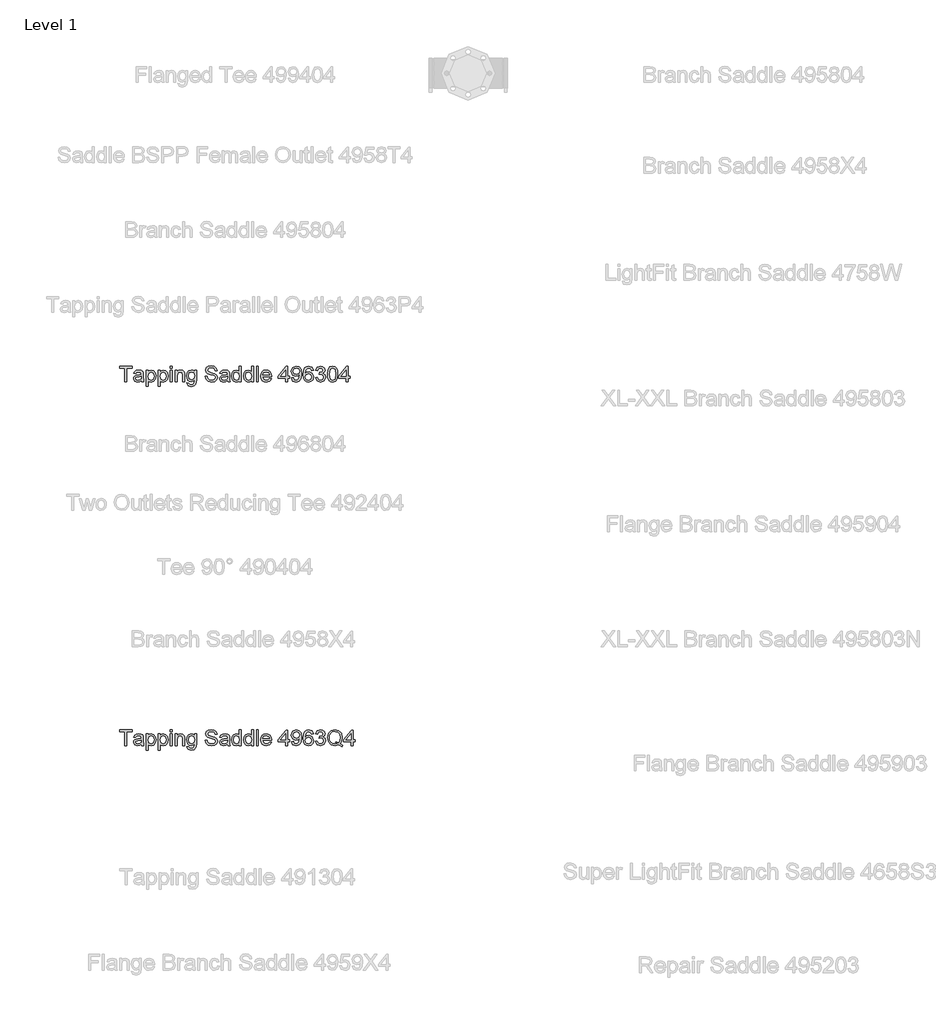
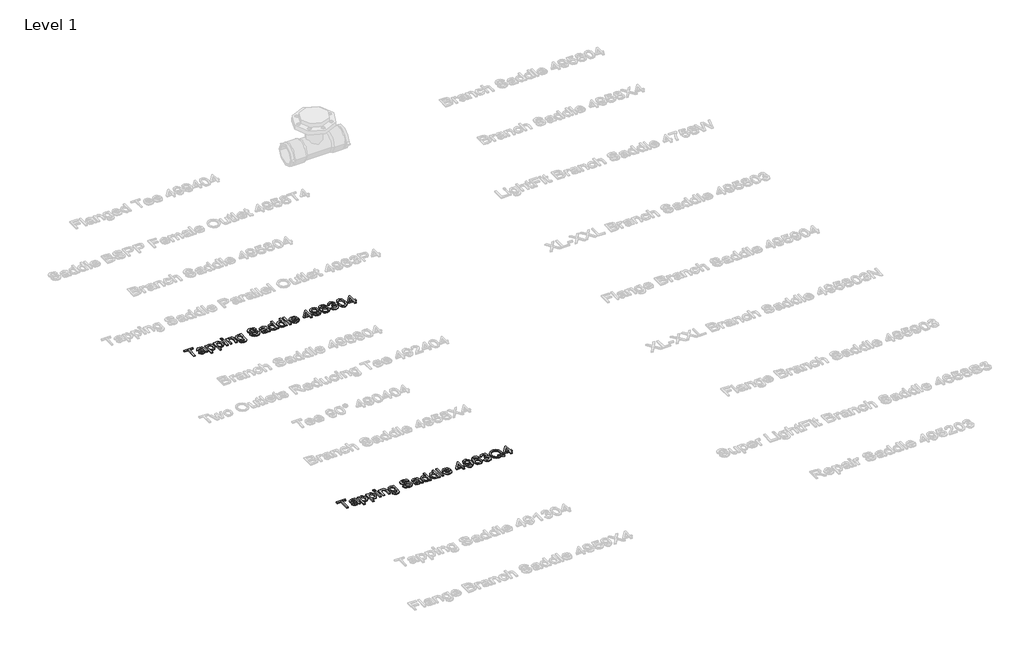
# One storey, part 5 of 41: 2 proxies.
"""IFC4 building model written with IfcOpenShell, lengths in millimetres."""

from ifc_helpers import new_model, si_unit, origin, origin_with_axes, place, context, project, spatial, polyline, outline, extrude, element, save

model = new_model("IFC4")

# Units and contexts
model_context = context("Model", 3, world=origin())
ifc_project = project(units=[si_unit("LENGTHUNIT", "METRE", prefix="MILLI")], contexts=[model_context])

# Site, building, storey
site = spatial("IfcSite", under=ifc_project)
building = spatial("IfcBuilding", under=site)
storey = spatial("IfcBuildingStorey", under=building, Name="Level 1", Elevation=0.0)

# Proxies
placement = place(None, origin())
element("IfcBuildingElementProxy", 1, Name="100 mm Arial", ObjectType="100 mm Arial", at=placement, inside=storey, context=model_context, shape_type="SweptSolid", body=[
    extrude(outline(polyline([(6647.6731533, 3817.5779735), (6647.6731533, 3869.2702812), (6628.288538, 3869.2702812), (6628.288538, 3876.6548966), (6674.4423841, 3876.6548966), (6674.4423841, 3869.2702812), (6655.0577687, 3869.2702812), (6655.0577687, 3817.5779735), (6647.6731533, 3817.5779735)])), origin_with_axes(), (0.0, 0.0, 1.0), 5.0),
    extrude(outline(polyline([(6709.5193072, 3823.1164351), (6702.3582495, 3818.1116274), (6694.4471918, 3816.6548966), (6683.7236341, 3820.1597043), (6679.9808456, 3829.1164351), (6681.3943072, 3834.9577812), (6685.1082495, 3839.1981658), (6690.2789226, 3841.6212428), (6696.6683456, 3842.7318197), (6709.476038, 3845.2702812), (6709.5193072, 3846.914512), (6707.4856533, 3852.3664351), (6699.3221918, 3854.5010505), (6691.851038, 3853.0803774), (6688.288538, 3848.039512), (6680.9039226, 3848.9625889), (6684.0986341, 3856.1741274), (6690.5313264, 3860.4000889), (6700.2741149, 3861.8856658), (6709.2236341, 3860.5731658), (6714.2789226, 3857.2774928), (6716.5433456, 3852.2654735), (6716.9039226, 3845.8039351), (6716.9039226, 3836.6164351), (6717.2789226, 3823.7871082), (6718.7500764, 3817.5779735), (6711.365461, 3817.5779735), (6709.5193072, 3823.1164351)]), holes=[polyline([(6709.5193072, 3837.8856658), (6697.6058456, 3835.6212428), (6691.2524803, 3834.4241274), (6688.3750764, 3832.477012), (6687.365461, 3829.6356658), (6689.5649803, 3825.6404735), (6696.0193072, 3824.039512), (6703.490461, 3825.8063389), (6708.3077687, 3830.0827812), (6709.476038, 3835.7943197), (6709.5193072, 3837.8856658)])]), origin_with_axes(), (0.0, 0.0, 1.0), 5.0),
    extrude(outline(polyline([(6727.0577687, 3800.9625889), (6727.0577687, 3860.9625889), (6734.4423841, 3860.9625889), (6734.4423841, 3853.7222043), (6739.5481533, 3859.8448005), (6746.4423841, 3861.8856658), (6755.802961, 3859.0298966), (6761.9183456, 3850.9818197), (6763.9808456, 3839.602012), (6761.6515187, 3827.6380697), (6754.8870956, 3819.4890312), (6745.5481533, 3816.6548966), (6739.1226726, 3818.5515312), (6734.4423841, 3823.3472043), (6734.4423841, 3800.9625889), (6727.0577687, 3800.9625889)]), holes=[polyline([(6734.4423841, 3838.9241274), (6737.6370956, 3827.6741274), (6745.3894995, 3824.039512), (6753.3005572, 3827.8039351), (6756.5962303, 3839.4722043), (6753.3798841, 3850.7510505), (6745.6923841, 3854.5010505), (6737.8534418, 3850.5130697), (6734.4423841, 3838.9241274)])]), origin_with_axes(), (0.0, 0.0, 1.0), 5.0),
    extrude(outline(polyline([(6772.288538, 3800.9625889), (6772.288538, 3860.9625889), (6779.6731533, 3860.9625889), (6779.6731533, 3853.7222043), (6784.7789226, 3859.8448005), (6791.6731533, 3861.8856658), (6801.0337303, 3859.0298966), (6807.1491149, 3850.9818197), (6809.2116149, 3839.602012), (6806.882288, 3827.6380697), (6800.1178649, 3819.4890312), (6790.7789226, 3816.6548966), (6784.3534418, 3818.5515312), (6779.6731533, 3823.3472043), (6779.6731533, 3800.9625889), (6772.288538, 3800.9625889)]), holes=[polyline([(6779.6731533, 3838.9241274), (6782.8678649, 3827.6741274), (6790.6202687, 3824.039512), (6798.5313264, 3827.8039351), (6801.8269995, 3839.4722043), (6798.6106533, 3850.7510505), (6790.9231533, 3854.5010505), (6783.084211, 3850.5130697), (6779.6731533, 3838.9241274)])]), origin_with_axes(), (0.0, 0.0, 1.0), 5.0),
    extrude(outline(polyline([(6817.5193072, 3869.2702812), (6817.5193072, 3876.6548966), (6824.9039226, 3876.6548966), (6824.9039226, 3869.2702812), (6817.5193072, 3869.2702812)])), origin_with_axes(), (0.0, 0.0, 1.0), 5.0),
    extrude(outline(polyline([(6817.5193072, 3817.5779735), (6817.5193072, 3860.9625889), (6824.9039226, 3860.9625889), (6824.9039226, 3817.5779735), (6817.5193072, 3817.5779735)])), origin_with_axes(), (0.0, 0.0, 1.0), 5.0),
    extrude(outline(polyline([(6835.9808456, 3817.5779735), (6835.9808456, 3860.9625889), (6843.365461, 3860.9625889), (6843.365461, 3854.9048966), (6849.0120956, 3860.1404735), (6856.7212303, 3861.8856658), (6863.694788, 3860.4794158), (6868.4544033, 3856.7871082), (6870.6683456, 3851.3568197), (6871.0577687, 3844.2173966), (6871.0577687, 3817.5779735), (6863.6731533, 3817.5779735), (6863.6731533, 3843.2222043), (6862.8221918, 3849.7558582), (6859.8149803, 3853.2101851), (6854.7452687, 3854.5010505), (6846.7332495, 3851.602012), (6843.365461, 3840.5972043), (6843.365461, 3817.5779735), (6835.9808456, 3817.5779735)])), origin_with_axes(), (0.0, 0.0, 1.0), 5.0),
    extrude(outline(polyline([(6879.365461, 3813.8856658), (6886.7500764, 3812.9625889), (6889.1443072, 3809.0683582), (6896.3125764, 3807.4241274), (6903.8702687, 3809.2847043), (6907.476038, 3814.5058582), (6907.9808456, 3823.1164351), (6896.4423841, 3817.5779735), (6888.8288024, 3819.1897524), (6883.1515187, 3824.0250889), (6878.4423841, 3839.4866274), (6880.5553649, 3850.9313389), (6886.6707495, 3859.0298966), (6896.0818072, 3861.8856658), (6902.6695476, 3860.2702812), (6907.9808456, 3855.4241274), (6907.9808456, 3860.9625889), (6915.365461, 3860.9625889), (6915.365461, 3823.5058582), (6913.3462303, 3809.1621082), (6906.9495956, 3802.4914351), (6896.1683456, 3800.039512), (6883.8870956, 3803.4938389), (6879.365461, 3813.8856658)]), holes=[polyline([(6885.8269995, 3839.9914351), (6888.9784418, 3828.5611466), (6896.8894995, 3824.9625889), (6904.7861341, 3828.539512), (6907.9808456, 3839.7750889), (6904.6923841, 3850.7871082), (6896.7741149, 3854.5010505), (6889.021711, 3850.8448005), (6885.8269995, 3839.9914351)])]), origin_with_axes(), (0.0, 0.0, 1.0), 5.0),
    extrude(outline(polyline([(6947.6731533, 3837.8856658), (6955.0577687, 3837.8856658), (6957.4375764, 3830.4938389), (6963.2500764, 3825.820762), (6972.1058456, 3824.039512), (6979.8221918, 3825.3880697), (6984.8053649, 3829.0948005), (6986.4423841, 3834.0491274), (6985.2164226, 3838.6573005), (6980.1971918, 3842.0106658), (6969.444788, 3844.8303774), (6957.8702687, 3848.4722043), (6951.5890187, 3853.9673966), (6949.5193072, 3861.3087428), (6952.0794033, 3869.6669158), (6959.5577687, 3875.5659543), (6970.5048841, 3877.5779735), (6982.1875764, 3875.4722043), (6989.976038, 3869.2847043), (6992.9039226, 3860.039512), (6985.5193072, 3860.039512), (6981.3366149, 3867.6260505), (6970.7933456, 3870.1933582), (6960.2212303, 3867.6548966), (6956.9039226, 3861.5250889), (6959.2548841, 3856.4048966), (6971.3125764, 3852.2798966), (6984.3798841, 3848.5731658), (6991.5265187, 3842.5875889), (6993.8269995, 3834.2366274), (6991.1803649, 3825.4024928), (6983.5649803, 3818.9553774), (6972.3943072, 3816.6548966), (6959.2044033, 3819.1356658), (6950.8606533, 3826.6068197), (6947.6731533, 3837.8856658)])), origin_with_axes(), (0.0, 0.0, 1.0), 5.0),
    extrude(outline(polyline([(7031.6731533, 3823.1164351), (7024.5120956, 3818.1116274), (7016.601038, 3816.6548966), (7005.8774803, 3820.1597043), (7002.1346918, 3829.1164351), (7003.5481533, 3834.9577812), (7007.2620956, 3839.1981658), (7012.4327687, 3841.6212428), (7018.8221918, 3842.7318197), (7031.6298841, 3845.2702812), (7031.6731533, 3846.914512), (7029.6394995, 3852.3664351), (7021.476038, 3854.5010505), (7014.0048841, 3853.0803774), (7010.4423841, 3848.039512), (7003.0577687, 3848.9625889), (7006.2524803, 3856.1741274), (7012.6851726, 3860.4000889), (7022.427961, 3861.8856658), (7031.3774803, 3860.5731658), (7036.4327687, 3857.2774928), (7038.6971918, 3852.2654735), (7039.0577687, 3845.8039351), (7039.0577687, 3836.6164351), (7039.4327687, 3823.7871082), (7040.9039226, 3817.5779735), (7033.5193072, 3817.5779735), (7031.6731533, 3823.1164351)]), holes=[polyline([(7031.6731533, 3837.8856658), (7019.7596918, 3835.6212428), (7013.4063264, 3834.4241274), (7010.5289226, 3832.477012), (7009.5193072, 3829.6356658), (7011.7188264, 3825.6404735), (7018.1731533, 3824.039512), (7025.6443072, 3825.8063389), (7030.4616149, 3830.0827812), (7031.6298841, 3835.7943197), (7031.6731533, 3837.8856658)])]), origin_with_axes(), (0.0, 0.0, 1.0), 5.0),
    extrude(outline(polyline([(7075.9808456, 3817.5779735), (7075.9808456, 3824.5443197), (7071.0950283, 3818.6272524), (7064.3414226, 3816.6548966), (7055.1971918, 3819.5106658), (7048.7356533, 3827.4794158), (7046.4423841, 3839.227012), (7048.5553649, 3850.9818197), (7054.8870956, 3859.0731658), (7064.3125764, 3861.8856658), (7071.1202687, 3859.8736466), (7075.9808456, 3854.6452812), (7075.9808456, 3876.6548966), (7083.365461, 3876.6548966), (7083.365461, 3817.5779735), (7075.9808456, 3817.5779735)]), holes=[polyline([(7053.8269995, 3839.2558582), (7057.1587303, 3827.8255697), (7065.0193072, 3824.039512), (7072.7861341, 3827.6524928), (7075.9808456, 3838.6933582), (7072.7284418, 3850.6789351), (7064.7164226, 3854.5010505), (7056.9423841, 3850.8303774), (7053.8269995, 3839.2558582)])]), origin_with_axes(), (0.0, 0.0, 1.0), 5.0),
    extrude(outline(polyline([(7121.2116149, 3817.5779735), (7121.2116149, 3824.5443197), (7116.3257976, 3818.6272524), (7109.5721918, 3816.6548966), (7100.427961, 3819.5106658), (7093.9664226, 3827.4794158), (7091.6731533, 3839.227012), (7093.7861341, 3850.9818197), (7100.1178649, 3859.0731658), (7109.5433456, 3861.8856658), (7116.351038, 3859.8736466), (7121.2116149, 3854.6452812), (7121.2116149, 3876.6548966), (7128.5962303, 3876.6548966), (7128.5962303, 3817.5779735), (7121.2116149, 3817.5779735)]), holes=[polyline([(7099.0577687, 3839.2558582), (7102.3894995, 3827.8255697), (7110.2500764, 3824.039512), (7118.0169033, 3827.6524928), (7121.2116149, 3838.6933582), (7117.959211, 3850.6789351), (7109.9471918, 3854.5010505), (7102.1731533, 3850.8303774), (7099.0577687, 3839.2558582)])]), origin_with_axes(), (0.0, 0.0, 1.0), 5.0),
    extrude(outline(polyline([(7139.6731533, 3817.5779735), (7139.6731533, 3876.6548966), (7147.0577687, 3876.6548966), (7147.0577687, 3817.5779735), (7139.6731533, 3817.5779735)])), origin_with_axes(), (0.0, 0.0, 1.0), 5.0),
    extrude(outline(polyline([(7188.5096918, 3830.5010505), (7195.7500764, 3829.5779735), (7188.9784418, 3820.0443197), (7176.365461, 3816.6548966), (7167.7007976, 3818.117036), (7161.0337303, 3822.5034543), (7156.7825283, 3829.5292957), (7155.365461, 3838.9097043), (7156.7969514, 3848.6056178), (7161.0914226, 3855.8568197), (7167.6683456, 3860.3784543), (7175.9471918, 3861.8856658), (7183.9682255, 3860.3820601), (7190.3774803, 3855.8712428), (7194.5800043, 3848.6344639), (7195.9808456, 3838.9529735), (7195.9375764, 3836.9625889), (7162.7500764, 3836.9625889), (7166.9976726, 3827.3712428), (7176.5096918, 3824.039512), (7183.7500764, 3825.5827812), (7188.5096918, 3830.5010505)]), holes=[polyline([(7162.7500764, 3844.3472043), (7188.5962303, 3844.3472043), (7185.6394995, 3851.039512), (7175.9183456, 3854.5010505), (7166.8245956, 3851.7390312), (7162.7500764, 3844.3472043)])]), origin_with_axes(), (0.0, 0.0, 1.0), 5.0),
    extrude(outline(polyline([(7248.5962303, 3817.5779735), (7248.5962303, 3831.4241274), (7221.8269995, 3831.4241274), (7221.8269995, 3838.8087428), (7250.4423841, 3875.7318197), (7255.9808456, 3875.7318197), (7255.9808456, 3838.8087428), (7263.365461, 3838.8087428), (7263.365461, 3831.4241274), (7255.9808456, 3831.4241274), (7255.9808456, 3817.5779735), (7248.5962303, 3817.5779735)]), holes=[polyline([(7248.5962303, 3838.8087428), (7248.5962303, 3861.6260505), (7230.913538, 3838.8087428), (7248.5962303, 3838.8087428)])]), origin_with_axes(), (0.0, 0.0, 1.0), 5.0),
    extrude(outline(polyline([(7270.7500764, 3832.3472043), (7278.1346918, 3833.2702812), (7281.4519995, 3826.2246082), (7287.740461, 3824.039512), (7293.7188264, 3825.445762), (7297.771711, 3829.2029735), (7300.1875764, 3835.6212428), (7301.2548841, 3844.1885505), (7295.3053649, 3840.0347043), (7287.2068072, 3837.8856658), (7274.8678649, 3843.1356658), (7269.8269995, 3856.9673966), (7275.1130572, 3871.2462428), (7288.3606533, 3876.6548966), (7298.882288, 3873.5683582), (7306.1226726, 3864.7702812), (7308.5962303, 3848.2414351), (7306.1298841, 3830.3063389), (7298.7957495, 3820.1452812), (7287.3943072, 3816.6548966), (7276.0433456, 3820.7726851), (7270.7500764, 3832.3472043)]), holes=[polyline([(7301.2116149, 3857.1404735), (7298.0241149, 3865.9962428), (7289.5577687, 3869.2702812), (7280.6731533, 3865.7438389), (7277.2116149, 3856.6068197), (7280.4856533, 3848.4217235), (7289.3558456, 3845.2702812), (7297.8726726, 3848.4217235), (7301.2116149, 3857.1404735)])]), origin_with_axes(), (0.0, 0.0, 1.0), 5.0),
    extrude(outline(polyline([(7352.9039226, 3860.9625889), (7345.5193072, 3860.039512), (7342.7212303, 3866.1981658), (7335.3221918, 3869.2702812), (7328.6587303, 3867.4818197), (7323.6178649, 3860.7678774), (7321.5193072, 3847.6068197), (7328.0313264, 3853.4986466), (7336.101038, 3855.4241274), (7348.6491149, 3850.1597043), (7353.8269995, 3836.5587428), (7351.3894995, 3826.3688389), (7344.6827687, 3819.1573005), (7335.0048841, 3816.6548966), (7326.6268793, 3818.3135505), (7319.9544033, 3823.289512), (7315.5896197, 3832.0731658), (7314.1346918, 3845.1548966), (7315.7500764, 3859.8628293), (7320.5962303, 3869.9193197), (7327.2128168, 3874.9710024), (7335.7837303, 3876.6548966), (7347.4519995, 3872.4866274), (7352.9039226, 3860.9625889)]), holes=[polyline([(7321.5193072, 3836.6741274), (7323.2284418, 3830.2774928), (7327.771711, 3825.633262), (7334.427961, 3824.039512), (7343.132288, 3827.3423966), (7346.4423841, 3836.3135505), (7343.1755572, 3844.9024928), (7334.1250764, 3848.039512), (7325.1899803, 3844.9024928), (7321.5193072, 3836.6741274)])]), origin_with_axes(), (0.0, 0.0, 1.0), 5.0),
    extrude(outline(polyline([(7360.288538, 3833.2702812), (7367.6731533, 3834.1933582), (7371.7476726, 3826.4193197), (7379.3702687, 3824.039512), (7388.3414226, 3827.3135505), (7391.6731533, 3835.4193197), (7388.3702687, 3843.0563389), (7379.976038, 3846.0779735), (7374.7981533, 3845.2702812), (7375.6202687, 3852.6548966), (7385.1827687, 3854.6885505), (7388.9039226, 3861.2077812), (7386.2068072, 3866.9842235), (7379.2548841, 3869.2702812), (7372.2164226, 3866.9625889), (7368.5962303, 3860.039512), (7361.2116149, 3860.9625889), (7367.2548841, 3872.5443197), (7378.9952687, 3876.6548966), (7387.9015187, 3874.6284543), (7394.132288, 3869.0899928), (7396.288538, 3861.6404735), (7394.240461, 3854.8327812), (7388.1827687, 3849.9433582), (7396.2308456, 3844.8952812), (7399.0577687, 3835.289512), (7393.4039226, 3822.0779735), (7379.1106533, 3816.6548966), (7366.1587303, 3821.2847043), (7360.288538, 3833.2702812)])), origin_with_axes(), (0.0, 0.0, 1.0), 5.0),
    extrude(outline(polyline([(7405.5193072, 3846.6404735), (7407.6899803, 3863.6380697), (7414.1370956, 3873.4385505), (7424.9039226, 3876.6548966), (7433.5289226, 3874.7510505), (7439.4856533, 3869.2630697), (7442.9471918, 3860.5226851), (7444.288538, 3846.6404735), (7442.1394995, 3829.7149928), (7435.7140187, 3819.8928774), (7424.9039226, 3816.6548966), (7417.2308456, 3818.0611466), (7411.4039226, 3822.2798966), (7406.990461, 3832.2714832), (7405.5193072, 3846.6404735)]), holes=[polyline([(7412.9039226, 3846.6548966), (7416.365461, 3828.3159543), (7424.9039226, 3824.039512), (7433.4423841, 3828.3303774), (7436.9039226, 3846.6548966), (7433.5577687, 3864.7847043), (7424.8173841, 3869.2702812), (7416.4808456, 3865.3183582), (7412.9039226, 3846.6548966)])]), origin_with_axes(), (0.0, 0.0, 1.0), 5.0),
    extrude(outline(polyline([(7474.7500764, 3817.5779735), (7474.7500764, 3831.4241274), (7447.9808456, 3831.4241274), (7447.9808456, 3838.8087428), (7476.5962303, 3875.7318197), (7482.1346918, 3875.7318197), (7482.1346918, 3838.8087428), (7489.5193072, 3838.8087428), (7489.5193072, 3831.4241274), (7482.1346918, 3831.4241274), (7482.1346918, 3817.5779735), (7474.7500764, 3817.5779735)]), holes=[polyline([(7474.7500764, 3838.8087428), (7474.7500764, 3861.6260505), (7457.0673841, 3838.8087428), (7474.7500764, 3838.8087428)])]), origin_with_axes(), (0.0, 0.0, 1.0), 5.0),
])
element("IfcBuildingElementProxy", 2, Name="100 mm Arial", ObjectType="100 mm Arial", at=placement, inside=storey, context=model_context, shape_type="SweptSolid", body=[
    extrude(outline(polyline([(6647.6731533, 2457.5779735), (6647.6731533, 2509.2702812), (6628.288538, 2509.2702812), (6628.288538, 2516.6548966), (6674.4423841, 2516.6548966), (6674.4423841, 2509.2702812), (6655.0577687, 2509.2702812), (6655.0577687, 2457.5779735), (6647.6731533, 2457.5779735)])), origin_with_axes(), (0.0, 0.0, 1.0), 5.0),
    extrude(outline(polyline([(6709.5193072, 2463.1164351), (6702.3582495, 2458.1116274), (6694.4471918, 2456.6548966), (6683.7236341, 2460.1597043), (6679.9808456, 2469.1164351), (6681.3943072, 2474.9577812), (6685.1082495, 2479.1981658), (6690.2789226, 2481.6212428), (6696.6683456, 2482.7318197), (6709.476038, 2485.2702812), (6709.5193072, 2486.914512), (6707.4856533, 2492.3664351), (6699.3221918, 2494.5010505), (6691.851038, 2493.0803774), (6688.288538, 2488.039512), (6680.9039226, 2488.9625889), (6684.0986341, 2496.1741274), (6690.5313264, 2500.4000889), (6700.2741149, 2501.8856658), (6709.2236341, 2500.5731658), (6714.2789226, 2497.2774928), (6716.5433456, 2492.2654735), (6716.9039226, 2485.8039351), (6716.9039226, 2476.6164351), (6717.2789226, 2463.7871082), (6718.7500764, 2457.5779735), (6711.365461, 2457.5779735), (6709.5193072, 2463.1164351)]), holes=[polyline([(6709.5193072, 2477.8856658), (6697.6058456, 2475.6212428), (6691.2524803, 2474.4241274), (6688.3750764, 2472.477012), (6687.365461, 2469.6356658), (6689.5649803, 2465.6404735), (6696.0193072, 2464.039512), (6703.490461, 2465.8063389), (6708.3077687, 2470.0827812), (6709.476038, 2475.7943197), (6709.5193072, 2477.8856658)])]), origin_with_axes(), (0.0, 0.0, 1.0), 5.0),
    extrude(outline(polyline([(6727.0577687, 2440.9625889), (6727.0577687, 2500.9625889), (6734.4423841, 2500.9625889), (6734.4423841, 2493.7222043), (6739.5481533, 2499.8448005), (6746.4423841, 2501.8856658), (6755.802961, 2499.0298966), (6761.9183456, 2490.9818197), (6763.9808456, 2479.602012), (6761.6515187, 2467.6380697), (6754.8870956, 2459.4890312), (6745.5481533, 2456.6548966), (6739.1226726, 2458.5515312), (6734.4423841, 2463.3472043), (6734.4423841, 2440.9625889), (6727.0577687, 2440.9625889)]), holes=[polyline([(6734.4423841, 2478.9241274), (6737.6370956, 2467.6741274), (6745.3894995, 2464.039512), (6753.3005572, 2467.8039351), (6756.5962303, 2479.4722043), (6753.3798841, 2490.7510505), (6745.6923841, 2494.5010505), (6737.8534418, 2490.5130697), (6734.4423841, 2478.9241274)])]), origin_with_axes(), (0.0, 0.0, 1.0), 5.0),
    extrude(outline(polyline([(6772.288538, 2440.9625889), (6772.288538, 2500.9625889), (6779.6731533, 2500.9625889), (6779.6731533, 2493.7222043), (6784.7789226, 2499.8448005), (6791.6731533, 2501.8856658), (6801.0337303, 2499.0298966), (6807.1491149, 2490.9818197), (6809.2116149, 2479.602012), (6806.882288, 2467.6380697), (6800.1178649, 2459.4890312), (6790.7789226, 2456.6548966), (6784.3534418, 2458.5515312), (6779.6731533, 2463.3472043), (6779.6731533, 2440.9625889), (6772.288538, 2440.9625889)]), holes=[polyline([(6779.6731533, 2478.9241274), (6782.8678649, 2467.6741274), (6790.6202687, 2464.039512), (6798.5313264, 2467.8039351), (6801.8269995, 2479.4722043), (6798.6106533, 2490.7510505), (6790.9231533, 2494.5010505), (6783.084211, 2490.5130697), (6779.6731533, 2478.9241274)])]), origin_with_axes(), (0.0, 0.0, 1.0), 5.0),
    extrude(outline(polyline([(6817.5193072, 2509.2702812), (6817.5193072, 2516.6548966), (6824.9039226, 2516.6548966), (6824.9039226, 2509.2702812), (6817.5193072, 2509.2702812)])), origin_with_axes(), (0.0, 0.0, 1.0), 5.0),
    extrude(outline(polyline([(6817.5193072, 2457.5779735), (6817.5193072, 2500.9625889), (6824.9039226, 2500.9625889), (6824.9039226, 2457.5779735), (6817.5193072, 2457.5779735)])), origin_with_axes(), (0.0, 0.0, 1.0), 5.0),
    extrude(outline(polyline([(6835.9808456, 2457.5779735), (6835.9808456, 2500.9625889), (6843.365461, 2500.9625889), (6843.365461, 2494.9048966), (6849.0120956, 2500.1404735), (6856.7212303, 2501.8856658), (6863.694788, 2500.4794158), (6868.4544033, 2496.7871082), (6870.6683456, 2491.3568197), (6871.0577687, 2484.2173966), (6871.0577687, 2457.5779735), (6863.6731533, 2457.5779735), (6863.6731533, 2483.2222043), (6862.8221918, 2489.7558582), (6859.8149803, 2493.2101851), (6854.7452687, 2494.5010505), (6846.7332495, 2491.602012), (6843.365461, 2480.5972043), (6843.365461, 2457.5779735), (6835.9808456, 2457.5779735)])), origin_with_axes(), (0.0, 0.0, 1.0), 5.0),
    extrude(outline(polyline([(6879.365461, 2453.8856658), (6886.7500764, 2452.9625889), (6889.1443072, 2449.0683582), (6896.3125764, 2447.4241274), (6903.8702687, 2449.2847043), (6907.476038, 2454.5058582), (6907.9808456, 2463.1164351), (6896.4423841, 2457.5779735), (6888.8288024, 2459.1897524), (6883.1515187, 2464.0250889), (6878.4423841, 2479.4866274), (6880.5553649, 2490.9313389), (6886.6707495, 2499.0298966), (6896.0818072, 2501.8856658), (6902.6695476, 2500.2702812), (6907.9808456, 2495.4241274), (6907.9808456, 2500.9625889), (6915.365461, 2500.9625889), (6915.365461, 2463.5058582), (6913.3462303, 2449.1621082), (6906.9495956, 2442.4914351), (6896.1683456, 2440.039512), (6883.8870956, 2443.4938389), (6879.365461, 2453.8856658)]), holes=[polyline([(6885.8269995, 2479.9914351), (6888.9784418, 2468.5611466), (6896.8894995, 2464.9625889), (6904.7861341, 2468.539512), (6907.9808456, 2479.7750889), (6904.6923841, 2490.7871082), (6896.7741149, 2494.5010505), (6889.021711, 2490.8448005), (6885.8269995, 2479.9914351)])]), origin_with_axes(), (0.0, 0.0, 1.0), 5.0),
    extrude(outline(polyline([(6947.6731533, 2477.8856658), (6955.0577687, 2477.8856658), (6957.4375764, 2470.4938389), (6963.2500764, 2465.820762), (6972.1058456, 2464.039512), (6979.8221918, 2465.3880697), (6984.8053649, 2469.0948005), (6986.4423841, 2474.0491274), (6985.2164226, 2478.6573005), (6980.1971918, 2482.0106658), (6969.444788, 2484.8303774), (6957.8702687, 2488.4722043), (6951.5890187, 2493.9673966), (6949.5193072, 2501.3087428), (6952.0794033, 2509.6669158), (6959.5577687, 2515.5659543), (6970.5048841, 2517.5779735), (6982.1875764, 2515.4722043), (6989.976038, 2509.2847043), (6992.9039226, 2500.039512), (6985.5193072, 2500.039512), (6981.3366149, 2507.6260505), (6970.7933456, 2510.1933582), (6960.2212303, 2507.6548966), (6956.9039226, 2501.5250889), (6959.2548841, 2496.4048966), (6971.3125764, 2492.2798966), (6984.3798841, 2488.5731658), (6991.5265187, 2482.5875889), (6993.8269995, 2474.2366274), (6991.1803649, 2465.4024928), (6983.5649803, 2458.9553774), (6972.3943072, 2456.6548966), (6959.2044033, 2459.1356658), (6950.8606533, 2466.6068197), (6947.6731533, 2477.8856658)])), origin_with_axes(), (0.0, 0.0, 1.0), 5.0),
    extrude(outline(polyline([(7031.6731533, 2463.1164351), (7024.5120956, 2458.1116274), (7016.601038, 2456.6548966), (7005.8774803, 2460.1597043), (7002.1346918, 2469.1164351), (7003.5481533, 2474.9577812), (7007.2620956, 2479.1981658), (7012.4327687, 2481.6212428), (7018.8221918, 2482.7318197), (7031.6298841, 2485.2702812), (7031.6731533, 2486.914512), (7029.6394995, 2492.3664351), (7021.476038, 2494.5010505), (7014.0048841, 2493.0803774), (7010.4423841, 2488.039512), (7003.0577687, 2488.9625889), (7006.2524803, 2496.1741274), (7012.6851726, 2500.4000889), (7022.427961, 2501.8856658), (7031.3774803, 2500.5731658), (7036.4327687, 2497.2774928), (7038.6971918, 2492.2654735), (7039.0577687, 2485.8039351), (7039.0577687, 2476.6164351), (7039.4327687, 2463.7871082), (7040.9039226, 2457.5779735), (7033.5193072, 2457.5779735), (7031.6731533, 2463.1164351)]), holes=[polyline([(7031.6731533, 2477.8856658), (7019.7596918, 2475.6212428), (7013.4063264, 2474.4241274), (7010.5289226, 2472.477012), (7009.5193072, 2469.6356658), (7011.7188264, 2465.6404735), (7018.1731533, 2464.039512), (7025.6443072, 2465.8063389), (7030.4616149, 2470.0827812), (7031.6298841, 2475.7943197), (7031.6731533, 2477.8856658)])]), origin_with_axes(), (0.0, 0.0, 1.0), 5.0),
    extrude(outline(polyline([(7075.9808456, 2457.5779735), (7075.9808456, 2464.5443197), (7071.0950283, 2458.6272524), (7064.3414226, 2456.6548966), (7055.1971918, 2459.5106658), (7048.7356533, 2467.4794158), (7046.4423841, 2479.227012), (7048.5553649, 2490.9818197), (7054.8870956, 2499.0731658), (7064.3125764, 2501.8856658), (7071.1202687, 2499.8736466), (7075.9808456, 2494.6452812), (7075.9808456, 2516.6548966), (7083.365461, 2516.6548966), (7083.365461, 2457.5779735), (7075.9808456, 2457.5779735)]), holes=[polyline([(7053.8269995, 2479.2558582), (7057.1587303, 2467.8255697), (7065.0193072, 2464.039512), (7072.7861341, 2467.6524928), (7075.9808456, 2478.6933582), (7072.7284418, 2490.6789351), (7064.7164226, 2494.5010505), (7056.9423841, 2490.8303774), (7053.8269995, 2479.2558582)])]), origin_with_axes(), (0.0, 0.0, 1.0), 5.0),
    extrude(outline(polyline([(7121.2116149, 2457.5779735), (7121.2116149, 2464.5443197), (7116.3257976, 2458.6272524), (7109.5721918, 2456.6548966), (7100.427961, 2459.5106658), (7093.9664226, 2467.4794158), (7091.6731533, 2479.227012), (7093.7861341, 2490.9818197), (7100.1178649, 2499.0731658), (7109.5433456, 2501.8856658), (7116.351038, 2499.8736466), (7121.2116149, 2494.6452812), (7121.2116149, 2516.6548966), (7128.5962303, 2516.6548966), (7128.5962303, 2457.5779735), (7121.2116149, 2457.5779735)]), holes=[polyline([(7099.0577687, 2479.2558582), (7102.3894995, 2467.8255697), (7110.2500764, 2464.039512), (7118.0169033, 2467.6524928), (7121.2116149, 2478.6933582), (7117.959211, 2490.6789351), (7109.9471918, 2494.5010505), (7102.1731533, 2490.8303774), (7099.0577687, 2479.2558582)])]), origin_with_axes(), (0.0, 0.0, 1.0), 5.0),
    extrude(outline(polyline([(7139.6731533, 2457.5779735), (7139.6731533, 2516.6548966), (7147.0577687, 2516.6548966), (7147.0577687, 2457.5779735), (7139.6731533, 2457.5779735)])), origin_with_axes(), (0.0, 0.0, 1.0), 5.0),
    extrude(outline(polyline([(7188.5096918, 2470.5010505), (7195.7500764, 2469.5779735), (7188.9784418, 2460.0443197), (7176.365461, 2456.6548966), (7167.7007976, 2458.117036), (7161.0337303, 2462.5034543), (7156.7825283, 2469.5292957), (7155.365461, 2478.9097043), (7156.7969514, 2488.6056178), (7161.0914226, 2495.8568197), (7167.6683456, 2500.3784543), (7175.9471918, 2501.8856658), (7183.9682255, 2500.3820601), (7190.3774803, 2495.8712428), (7194.5800043, 2488.6344639), (7195.9808456, 2478.9529735), (7195.9375764, 2476.9625889), (7162.7500764, 2476.9625889), (7166.9976726, 2467.3712428), (7176.5096918, 2464.039512), (7183.7500764, 2465.5827812), (7188.5096918, 2470.5010505)]), holes=[polyline([(7162.7500764, 2484.3472043), (7188.5962303, 2484.3472043), (7185.6394995, 2491.039512), (7175.9183456, 2494.5010505), (7166.8245956, 2491.7390312), (7162.7500764, 2484.3472043)])]), origin_with_axes(), (0.0, 0.0, 1.0), 5.0),
    extrude(outline(polyline([(7248.5962303, 2457.5779735), (7248.5962303, 2471.4241274), (7221.8269995, 2471.4241274), (7221.8269995, 2478.8087428), (7250.4423841, 2515.7318197), (7255.9808456, 2515.7318197), (7255.9808456, 2478.8087428), (7263.365461, 2478.8087428), (7263.365461, 2471.4241274), (7255.9808456, 2471.4241274), (7255.9808456, 2457.5779735), (7248.5962303, 2457.5779735)]), holes=[polyline([(7248.5962303, 2478.8087428), (7248.5962303, 2501.6260505), (7230.913538, 2478.8087428), (7248.5962303, 2478.8087428)])]), origin_with_axes(), (0.0, 0.0, 1.0), 5.0),
    extrude(outline(polyline([(7270.7500764, 2472.3472043), (7278.1346918, 2473.2702812), (7281.4519995, 2466.2246082), (7287.740461, 2464.039512), (7293.7188264, 2465.445762), (7297.771711, 2469.2029735), (7300.1875764, 2475.6212428), (7301.2548841, 2484.1885505), (7295.3053649, 2480.0347043), (7287.2068072, 2477.8856658), (7274.8678649, 2483.1356658), (7269.8269995, 2496.9673966), (7275.1130572, 2511.2462428), (7288.3606533, 2516.6548966), (7298.882288, 2513.5683582), (7306.1226726, 2504.7702812), (7308.5962303, 2488.2414351), (7306.1298841, 2470.3063389), (7298.7957495, 2460.1452812), (7287.3943072, 2456.6548966), (7276.0433456, 2460.7726851), (7270.7500764, 2472.3472043)]), holes=[polyline([(7301.2116149, 2497.1404735), (7298.0241149, 2505.9962428), (7289.5577687, 2509.2702812), (7280.6731533, 2505.7438389), (7277.2116149, 2496.6068197), (7280.4856533, 2488.4217235), (7289.3558456, 2485.2702812), (7297.8726726, 2488.4217235), (7301.2116149, 2497.1404735)])]), origin_with_axes(), (0.0, 0.0, 1.0), 5.0),
    extrude(outline(polyline([(7352.9039226, 2500.9625889), (7345.5193072, 2500.039512), (7342.7212303, 2506.1981658), (7335.3221918, 2509.2702812), (7328.6587303, 2507.4818197), (7323.6178649, 2500.7678774), (7321.5193072, 2487.6068197), (7328.0313264, 2493.4986466), (7336.101038, 2495.4241274), (7348.6491149, 2490.1597043), (7353.8269995, 2476.5587428), (7351.3894995, 2466.3688389), (7344.6827687, 2459.1573005), (7335.0048841, 2456.6548966), (7326.6268793, 2458.3135505), (7319.9544033, 2463.289512), (7315.5896197, 2472.0731658), (7314.1346918, 2485.1548966), (7315.7500764, 2499.8628293), (7320.5962303, 2509.9193197), (7327.2128168, 2514.9710024), (7335.7837303, 2516.6548966), (7347.4519995, 2512.4866274), (7352.9039226, 2500.9625889)]), holes=[polyline([(7321.5193072, 2476.6741274), (7323.2284418, 2470.2774928), (7327.771711, 2465.633262), (7334.427961, 2464.039512), (7343.132288, 2467.3423966), (7346.4423841, 2476.3135505), (7343.1755572, 2484.9024928), (7334.1250764, 2488.039512), (7325.1899803, 2484.9024928), (7321.5193072, 2476.6741274)])]), origin_with_axes(), (0.0, 0.0, 1.0), 5.0),
    extrude(outline(polyline([(7360.288538, 2473.2702812), (7367.6731533, 2474.1933582), (7371.7476726, 2466.4193197), (7379.3702687, 2464.039512), (7388.3414226, 2467.3135505), (7391.6731533, 2475.4193197), (7388.3702687, 2483.0563389), (7379.976038, 2486.0779735), (7374.7981533, 2485.2702812), (7375.6202687, 2492.6548966), (7385.1827687, 2494.6885505), (7388.9039226, 2501.2077812), (7386.2068072, 2506.9842235), (7379.2548841, 2509.2702812), (7372.2164226, 2506.9625889), (7368.5962303, 2500.039512), (7361.2116149, 2500.9625889), (7367.2548841, 2512.5443197), (7378.9952687, 2516.6548966), (7387.9015187, 2514.6284543), (7394.132288, 2509.0899928), (7396.288538, 2501.6404735), (7394.240461, 2494.8327812), (7388.1827687, 2489.9433582), (7396.2308456, 2484.8952812), (7399.0577687, 2475.289512), (7393.4039226, 2462.0779735), (7379.1106533, 2456.6548966), (7366.1587303, 2461.2847043), (7360.288538, 2473.2702812)])), origin_with_axes(), (0.0, 0.0, 1.0), 5.0),
    extrude(outline(polyline([(7452.6683456, 2464.6597043), (7461.8269995, 2458.5010505), (7459.8366149, 2453.0923966), (7447.677961, 2460.0010505), (7433.3269995, 2456.6548966), (7418.9471918, 2460.5130697), (7409.0024803, 2471.3592235), (7405.5193072, 2487.102012), (7408.9952687, 2502.9601851), (7418.8894995, 2513.8423966), (7433.2548841, 2517.5779735), (7447.7140187, 2513.7558582), (7457.5289226, 2503.0539351), (7460.9039226, 2487.5347043), (7458.8558456, 2474.6260505), (7452.6683456, 2464.6597043)]), holes=[polyline([(7435.3606533, 2474.4818197), (7446.5818072, 2468.8712428), (7451.7849322, 2476.4866274), (7453.5193072, 2487.1597043), (7451.0673841, 2499.2823005), (7443.8919033, 2507.3303774), (7433.2981533, 2510.1933582), (7425.2500764, 2508.7456418), (7418.7019995, 2504.4024928), (7414.3534418, 2497.1855457), (7412.9039226, 2487.1164351), (7414.3372158, 2477.2636707), (7418.6370956, 2470.0034543), (7425.1653408, 2465.5304976), (7433.2837303, 2464.039512), (7441.2308456, 2465.5539351), (7433.4568072, 2468.8279735), (7435.3606533, 2474.4818197)])]), origin_with_axes(), (0.0, 0.0, 1.0), 5.0),
    extrude(outline(polyline([(7493.2116149, 2457.5779735), (7493.2116149, 2471.4241274), (7466.4423841, 2471.4241274), (7466.4423841, 2478.8087428), (7495.0577687, 2515.7318197), (7500.5962303, 2515.7318197), (7500.5962303, 2478.8087428), (7507.9808456, 2478.8087428), (7507.9808456, 2471.4241274), (7500.5962303, 2471.4241274), (7500.5962303, 2457.5779735), (7493.2116149, 2457.5779735)]), holes=[polyline([(7493.2116149, 2478.8087428), (7493.2116149, 2501.6260505), (7475.5289226, 2478.8087428), (7493.2116149, 2478.8087428)])]), origin_with_axes(), (0.0, 0.0, 1.0), 5.0),
])

save(model, "model.ifc")
